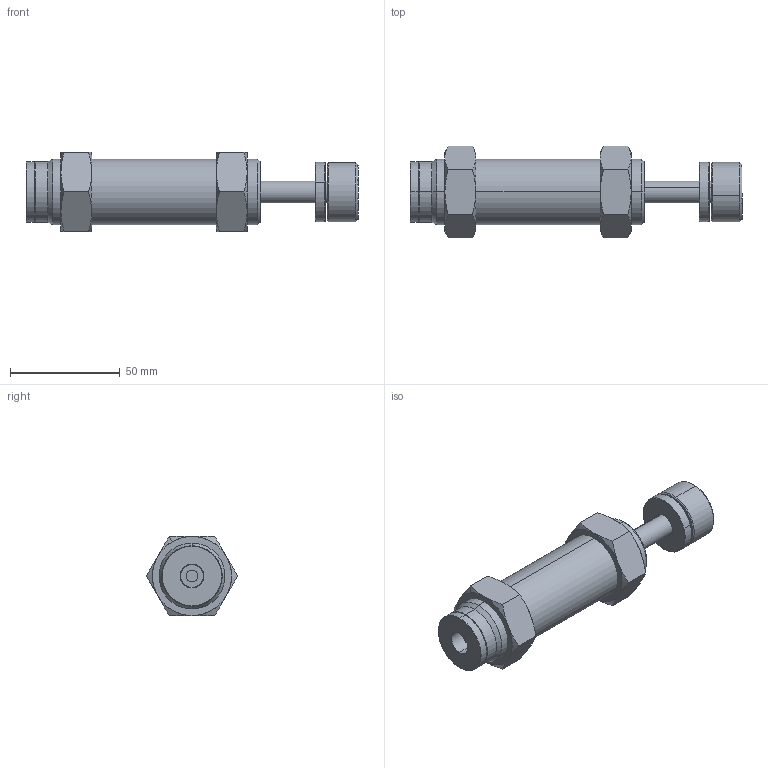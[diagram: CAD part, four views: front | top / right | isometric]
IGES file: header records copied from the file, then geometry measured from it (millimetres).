
Start section: SolidWorks IGES file using analytic representation for surfaces
Global section: file name: D:\IGS跡宒\AC3025.IGS,1; native system: 5HSolidWorks 2013; preprocessor: SolidWorks 2013; author: Administrator; date: 160406.152442; units: inch
Bounding box: 151 x 41.57 x 36 mm (x, y, z)
Surface area: 22763.8 mm2 (no closed solid volume)
Topology: 0 solids, 0 shells, 106 faces, 1740 edges, 1740 vertices
Faces by surface type: revolution 80, bspline 26
